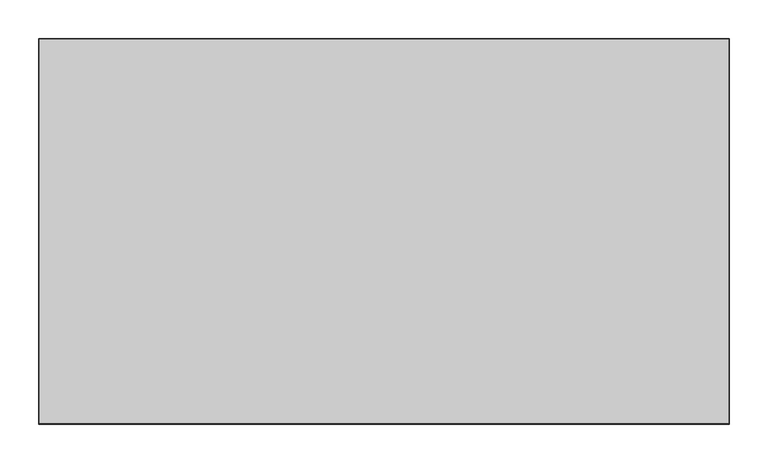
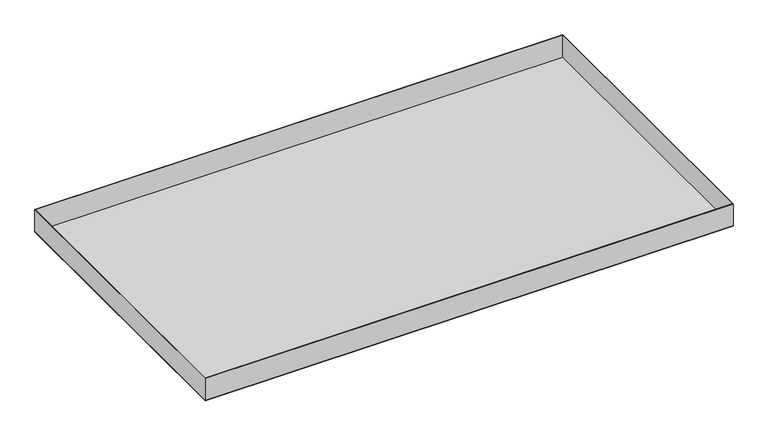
"""IFC4 building model written with IfcOpenShell, lengths in millimetres: proxy geometry, durlum_S5.7KS-BR_panel : durlum_S5.7KS-BR_panel_wall_width_cut."""

from ifc_helpers import new_model, si_unit, frame, origin, origin_with_axes, place, context, project, spatial, polyline, outline, extrude, source, transform, mapped, element, save


def generic_models_b8162554(model_context):
    return source(origin(), model_context, "Body", "SweptSolid", [
        extrude(outline(polyline([(447.0, 249.75), (447.0, -249.75), (-447.0, -249.75), (-447.0, 249.75), (447.0, 249.75)]), holes=[polyline([(446.0, 248.75), (-446.0, 248.75), (-446.0, -248.75), (446.0, -248.75), (446.0, 248.75)])]), frame((0.0, 0.0, 1.0), z_axis=(0.0, 0.0, 1.0), x_axis=(1.0, 0.0, 0.0)), (0.0, 0.0, 1.0), 39.0),
        extrude(outline(polyline([(447.0, 249.75), (447.0, -249.75), (-447.0, -249.75), (-447.0, 249.75), (447.0, 249.75)])), origin_with_axes(), (0.0, 0.0, 1.0), 1.0),
    ])


if __name__ == "__main__":
    model = new_model("IFC4")
    model_context = context("Model", 3, world=origin())
    ifc_project = project(units=[si_unit("LENGTHUNIT", "METRE", prefix="MILLI")], contexts=[model_context])
    site = spatial("IfcSite", under=ifc_project)
    building = spatial("IfcBuilding", under=site)
    placement = place(None, origin())
    generic_models_shape = generic_models_b8162554(model_context)
    element("IfcBuildingElementProxy", 1, Name="durlum_S5.7KS-BR_panel : durlum_S5.7KS-BR_panel_wall_width_cut", ObjectType="durlum_S5.7KS-BR_panel : durlum_S5.7KS-BR_panel_wall_width_cut", at=placement, inside=building, context=model_context, shape_type="MappedRepresentation", body=[
        mapped(generic_models_shape, transform((0.0, 0.0, 0.0), x_axis=(1.0, 0.0, 0.0), y_axis=(0.0, 1.0, 0.0), z_axis=(0.0, 0.0, 1.0))),
    ])
    save(model, "model.ifc")
